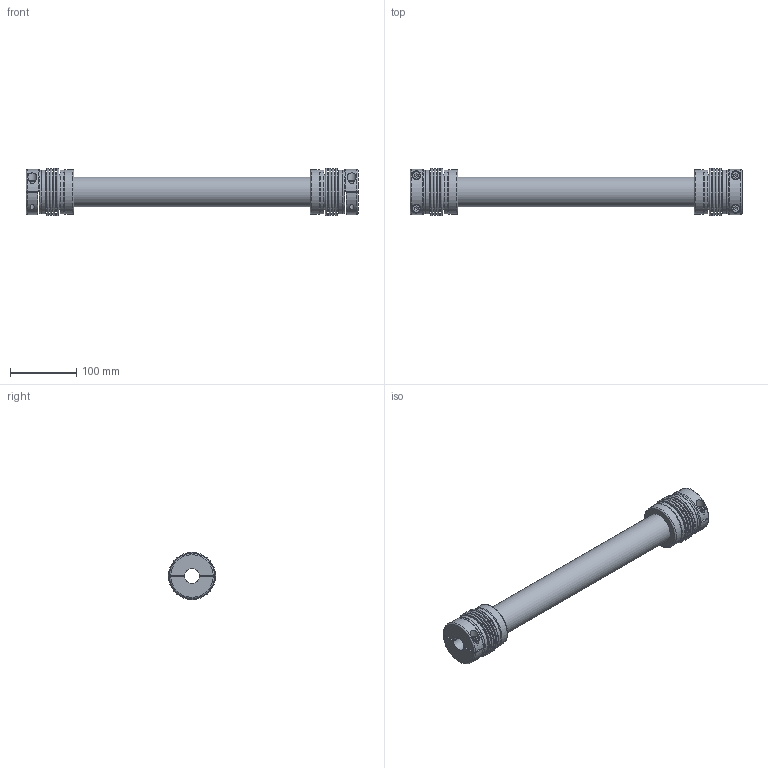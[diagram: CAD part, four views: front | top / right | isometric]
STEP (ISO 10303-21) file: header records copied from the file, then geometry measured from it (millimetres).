
FILE_DESCRIPTION( ( 'Unknown' ), '1' );
FILE_NAME( 'F:/JAKOB-STEP+IGES-Dateien/STEP-Dateien/WDE/WDE 80 - L=0,5m.stp', 'Unknown', ( 'Unknown' ), ( 'Unknown' ), 'PSStep 10.1', 'Unknown', ' ' );
FILE_SCHEMA( ( 'AUTOMOTIVE_DESIGN { 1 0 10303 214 1 1 1 1 }' ) );
Length unit declared in the file: millimetre
Products named in the file (1): WDE  80
Bounding box: 500 x 71 x 71 mm (x, y, z)
Volume: 367687.6 mm3; surface area: 226497.3 mm2
Topology: 1 solids, 1 shells, 228 faces, 466 edges, 304 vertices
Faces by surface type: plane 130, torus 52, cylinder 42, cone 4
Full cylindrical faces by diameter (mm): 6.8 x4, 8 x4, 8.6 x4, 13 x4, 13.5 x4, 40 x1, 45 x1, 49.643 x2, 65 x4, 66.2 x4, 67 x2
Entity records: 7972 total; most frequent: CARTESIAN_POINT 1673, DIRECTION 978, ORIENTED_EDGE 708, AXIS2_PLACEMENT_3D 419, EDGE_LOOP 380, EDGE_CURVE 354, FACE_OUTER_BOUND 306, VERTEX_POINT 278
